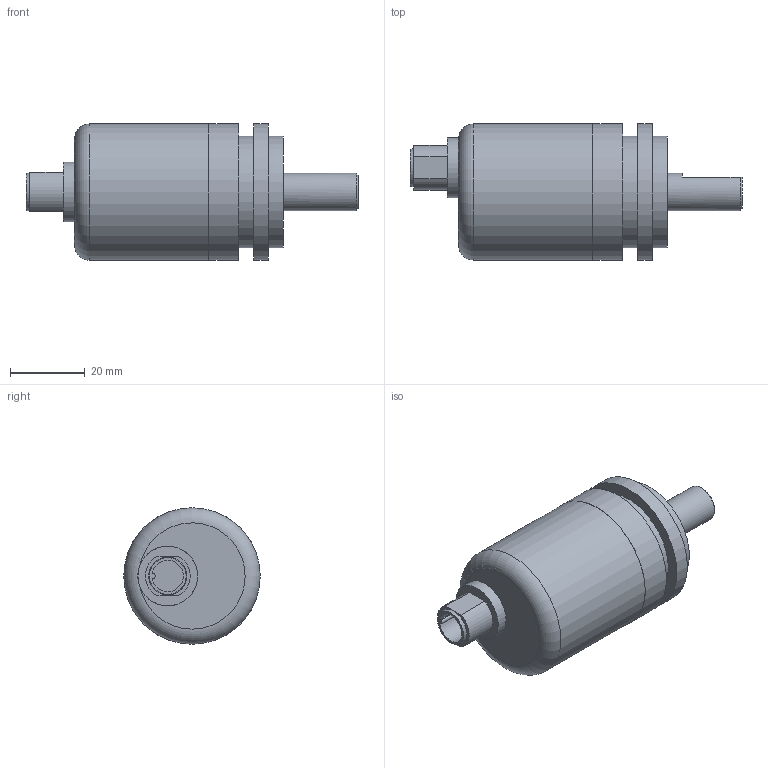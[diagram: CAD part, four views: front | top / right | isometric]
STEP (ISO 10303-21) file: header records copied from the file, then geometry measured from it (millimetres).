
FILE_DESCRIPTION( ( 'STEP AP203' ), '1' );
FILE_NAME( 'p:/temp/worker_92/temp/app_43_02019032714570378217506192d056f_000000_00_00_000000/format_1/RM9003.stp', '2019-03-27T13:57:05', ( '' ), ( '' ), ' ', 'PARTsolutions', ' ' );
FILE_SCHEMA( ( 'CONFIG_CONTROL_DESIGN' ) );
Length unit declared in the file: millimetre
Products named in the file (1): _RM9003
Bounding box: 89 x 36.6 x 36.6 mm (x, y, z)
Volume: 57989.6 mm3; surface area: 10470.6 mm2
Topology: 1 solids, 1 shells, 40 faces, 84 edges, 54 vertices
Faces by surface type: plane 18, cylinder 15, cone 6, torus 1
Full cylindrical faces by diameter (mm): 3.242 x4, 10 x1, 16 x1, 30 x2, 36.5 x2, 36.6 x1
Entity records: 982 total; most frequent: DIRECTION 176, CARTESIAN_POINT 156, ORIENTED_EDGE 118, AXIS2_PLACEMENT_3D 78, EDGE_LOOP 65, EDGE_CURVE 59, FACE_OUTER_BOUND 52, VERTEX_POINT 50
